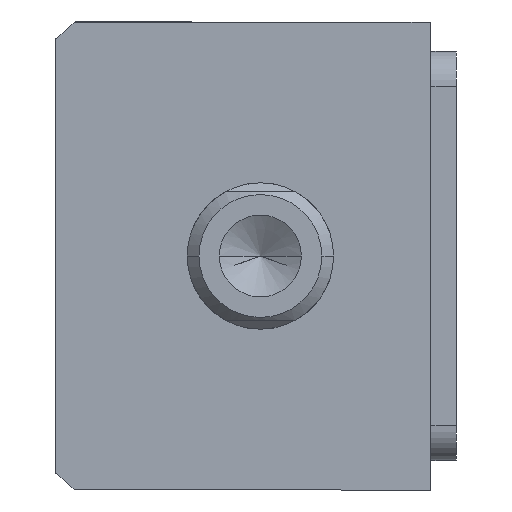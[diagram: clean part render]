
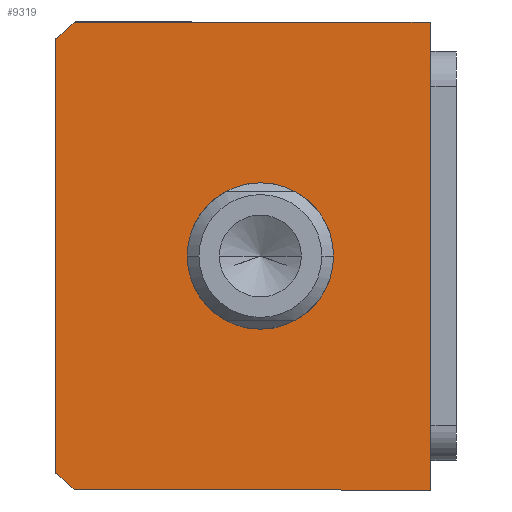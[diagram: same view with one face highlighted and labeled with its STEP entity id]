
A CAD part, front view. The second image highlights one B-rep face of the part: STEP entity #9319.
In plain terms, the highlighted planar face has unit normal (0, -1, 0) as drawn and (0, 0, -1) by its records, which use the part's own axes.
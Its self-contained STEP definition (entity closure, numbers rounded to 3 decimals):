
#151 = CARTESIAN_POINT ( 'NONE',  ( 12.5, 3., 0. ) ) ;
#316 = CARTESIAN_POINT ( 'NONE',  ( 40., 32., 0. ) ) ;
#394 = CARTESIAN_POINT ( 'NONE',  ( -40., -32., 0. ) ) ;
#538 = DIRECTION ( 'NONE',  ( 0., 0., 1. ) ) ;
#727 = CARTESIAN_POINT ( 'NONE',  ( 37.094, -32., 0. ) ) ;
#1081 = VECTOR ( 'NONE', #1296, 1000. ) ;
#1188 = DIRECTION ( 'NONE',  ( 0., 1., 0. ) ) ;
#1238 = EDGE_CURVE ( 'NONE', #6054, #6322, #8525, .T. ) ;
#1292 = CARTESIAN_POINT ( 'NONE',  ( 40., -28.639, 0. ) ) ;
#1296 = DIRECTION ( 'NONE',  ( 1., 0., 0. ) ) ;
#1307 = VERTEX_POINT ( 'NONE', #6564 ) ;
#1442 = CARTESIAN_POINT ( 'NONE',  ( 0., 3., 0. ) ) ;
#1508 = CIRCLE ( 'NONE', #2802, 51. ) ;
#1526 = ORIENTED_EDGE ( 'NONE', *, *, #5384, .F. ) ;
#1594 = VERTEX_POINT ( 'NONE', #1292 ) ;
#1733 = PLANE ( 'NONE',  #6029 ) ;
#1746 = ORIENTED_EDGE ( 'NONE', *, *, #5646, .F. ) ;
#2304 = DIRECTION ( 'NONE',  ( 1., 0., 0. ) ) ;
#2457 = DIRECTION ( 'NONE',  ( 0., 0., 1. ) ) ;
#2499 = FACE_BOUND ( 'NONE', #5271, .T. ) ;
#2540 = ORIENTED_EDGE ( 'NONE', *, *, #4065, .T. ) ;
#2638 = VERTEX_POINT ( 'NONE', #5463 ) ;
#2754 = ORIENTED_EDGE ( 'NONE', *, *, #3254, .F. ) ;
#2802 = AXIS2_PLACEMENT_3D ( 'NONE', #3893, #9623, #4699 ) ;
#2809 = VECTOR ( 'NONE', #7900, 1000. ) ;
#2848 = EDGE_LOOP ( 'NONE', ( #5547, #8021, #1746, #2754, #8293, #1526 ) ) ;
#3121 = AXIS2_PLACEMENT_3D ( 'NONE', #7399, #538, #6360 ) ;
#3254 = EDGE_CURVE ( 'NONE', #1594, #4027, #6672, .T. ) ;
#3401 = CARTESIAN_POINT ( 'NONE',  ( -40., -28.639, 0. ) ) ;
#3893 = CARTESIAN_POINT ( 'NONE',  ( 0., 3., 0. ) ) ;
#3915 = CARTESIAN_POINT ( 'NONE',  ( -40., 32., 0. ) ) ;
#4027 = VERTEX_POINT ( 'NONE', #8832 ) ;
#4065 = EDGE_CURVE ( 'NONE', #6322, #6054, #9734, .T. ) ;
#4332 = AXIS2_PLACEMENT_3D ( 'NONE', #1442, #7207, #2304 ) ;
#4699 = DIRECTION ( 'NONE',  ( 1., 0., 0. ) ) ;
#4906 = EDGE_CURVE ( 'NONE', #6556, #1307, #8055, .T. ) ;
#5045 = DIRECTION ( 'NONE',  ( 1., 0., 0. ) ) ;
#5235 = LINE ( 'NONE', #394, #1081 ) ;
#5271 = EDGE_LOOP ( 'NONE', ( #9840, #2540 ) ) ;
#5338 = CARTESIAN_POINT ( 'NONE',  ( -12.5, 3., 0. ) ) ;
#5384 = EDGE_CURVE ( 'NONE', #1307, #9912, #5235, .T. ) ;
#5446 = EDGE_CURVE ( 'NONE', #2638, #6556, #7153, .T. ) ;
#5463 = CARTESIAN_POINT ( 'NONE',  ( -40., 32., 0. ) ) ;
#5547 = ORIENTED_EDGE ( 'NONE', *, *, #4906, .F. ) ;
#5646 = EDGE_CURVE ( 'NONE', #4027, #2638, #10739, .T. ) ;
#6029 = AXIS2_PLACEMENT_3D ( 'NONE', #7481, #9955, #5045 ) ;
#6054 = VERTEX_POINT ( 'NONE', #151 ) ;
#6322 = VERTEX_POINT ( 'NONE', #5338 ) ;
#6332 = FACE_OUTER_BOUND ( 'NONE', #2848, .T. ) ;
#6360 = DIRECTION ( 'NONE',  ( 1., 0., 0. ) ) ;
#6556 = VERTEX_POINT ( 'NONE', #3401 ) ;
#6564 = CARTESIAN_POINT ( 'NONE',  ( -37.094, -32., 0. ) ) ;
#6672 = LINE ( 'NONE', #316, #10264 ) ;
#7153 = LINE ( 'NONE', #10360, #2809 ) ;
#7207 = DIRECTION ( 'NONE',  ( 0., 0., 1. ) ) ;
#7348 = CARTESIAN_POINT ( 'NONE',  ( 0., 3., 0. ) ) ;
#7399 = CARTESIAN_POINT ( 'NONE',  ( 0., 3., 0. ) ) ;
#7481 = CARTESIAN_POINT ( 'NONE',  ( 0., 0., 0. ) ) ;
#7900 = DIRECTION ( 'NONE',  ( 0., -1., 0. ) ) ;
#7934 = AXIS2_PLACEMENT_3D ( 'NONE', #7348, #2457, #8181 ) ;
#8021 = ORIENTED_EDGE ( 'NONE', *, *, #5446, .F. ) ;
#8055 = CIRCLE ( 'NONE', #3121, 51. ) ;
#8181 = DIRECTION ( 'NONE',  ( 1., 0., 0. ) ) ;
#8197 = EDGE_CURVE ( 'NONE', #9912, #1594, #1508, .T. ) ;
#8293 = ORIENTED_EDGE ( 'NONE', *, *, #8197, .F. ) ;
#8525 = CIRCLE ( 'NONE', #7934, 12.5 ) ;
#8827 = VECTOR ( 'NONE', #10458, 1000. ) ;
#8832 = CARTESIAN_POINT ( 'NONE',  ( 40., 32., 0. ) ) ;
#9319 = ADVANCED_FACE ( 'NONE', ( #2499, #6332 ), #1733, .F. ) ;
#9623 = DIRECTION ( 'NONE',  ( 0., 0., 1. ) ) ;
#9734 = CIRCLE ( 'NONE', #4332, 12.5 ) ;
#9840 = ORIENTED_EDGE ( 'NONE', *, *, #1238, .T. ) ;
#9912 = VERTEX_POINT ( 'NONE', #727 ) ;
#9955 = DIRECTION ( 'NONE',  ( 0., 0., 1. ) ) ;
#10264 = VECTOR ( 'NONE', #1188, 1000. ) ;
#10360 = CARTESIAN_POINT ( 'NONE',  ( -40., 32., 0. ) ) ;
#10458 = DIRECTION ( 'NONE',  ( -1., 0., 0. ) ) ;
#10739 = LINE ( 'NONE', #3915, #8827 ) ;
